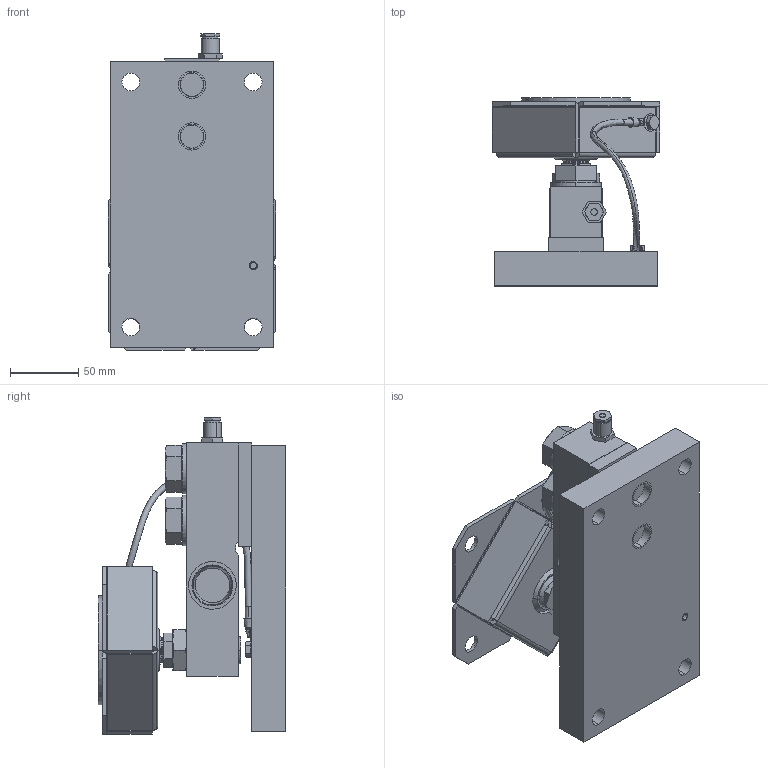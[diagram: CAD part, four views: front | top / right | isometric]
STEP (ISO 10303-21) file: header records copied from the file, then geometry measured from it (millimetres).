
FILE_DESCRIPTION((''),'1');
FILE_NAME('LMLAO_size-80.step','2022-10-31T14:53:06',(''),(''),'','','');
FILE_SCHEMA(('AUTOMOTIVE_DESIGN { 1 0 10303 214 1 1 1 1 }'));
Products named in the file (19): LMLAO part 01; LMLAO part 03; LMLAO part 05; LMLAO part 06; LMLAO part 07; LMLAO cable 01; LMLAO size-80; LMLAO part 08; LMLAO nut 01; LMLAO part 09; LMLAO base 01; LMLAO screw 01; LMLAO part 10; LMLAO screw 02; LMLAO screw 03; LMLAO load cell 01; LMLAO part 11; LMLAO part 12
Assembly tree (23 placements, depth 4):
  LMLAO size-80
    LMLAO part 06
      LMLAO part 01
        LMLAO part 03
        LMLAO part 05
      LMLAO part 07
        LMLAO part 03
        LMLAO part 05
      LMLAO cable 01
    LMLAO part 08
      LMLAO nut 01
      LMLAO part 09
      LMLAO base 01
    LMLAO size-80
    LMLAO screw 01  x2
    LMLAO part 10
    LMLAO screw 02  x2
    LMLAO screw 03  x2
    LMLAO load cell 01
    LMLAO part 11
    LMLAO part 12
Bounding box: 123.07 x 138.11 x 232.22 mm (x, y, z)
Volume: 1135706 mm3; surface area: 248820.4 mm2
Topology: 18 solids, 25 shells, 674 faces, 1672 edges, 1054 vertices
Faces by surface type: plane 246, cylinder 232, cone 90, bspline 70, torus 34, sphere 2
Full cylindrical faces by diameter (mm): 4 x2
Entity records: 21410 total; most frequent: CARTESIAN_POINT 9029, DIRECTION 2563, ORIENTED_EDGE 2388, EDGE_CURVE 1208, AXIS2_PLACEMENT_3D 1020, VERTEX_POINT 763, EDGE_LOOP 563, LINE 523
